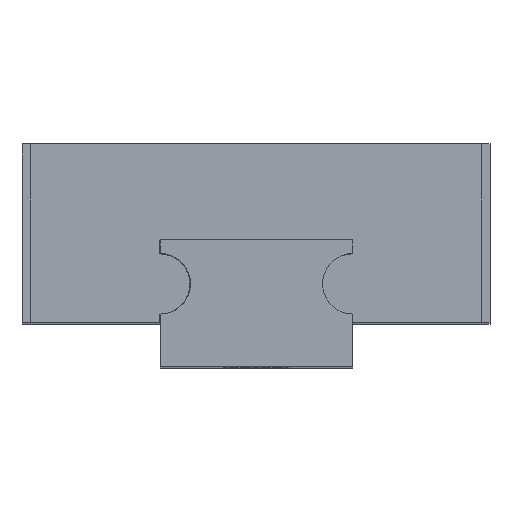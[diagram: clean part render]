
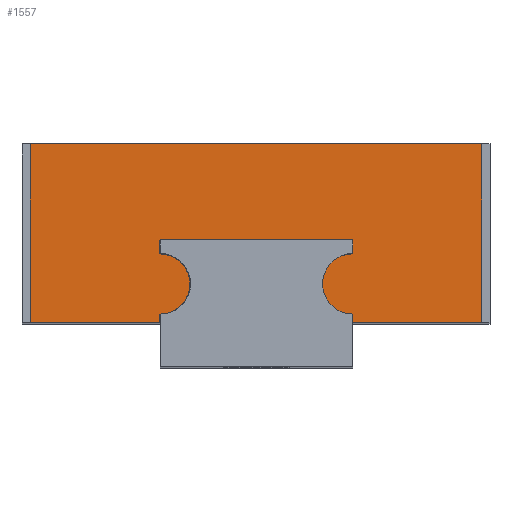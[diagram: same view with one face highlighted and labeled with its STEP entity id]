
A CAD part, top view. The second image highlights one B-rep face of the part: STEP entity #1557.
In plain terms, the highlighted planar face has unit normal (0, 0, 1).
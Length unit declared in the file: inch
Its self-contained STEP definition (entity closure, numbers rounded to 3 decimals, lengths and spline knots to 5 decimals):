
#51 = DIRECTION ( 'NONE',  ( 1., 0., 0. ) ) ;
#52 = DIRECTION ( 'NONE',  ( 0., 0., 1. ) ) ;
#71 = VERTEX_POINT ( 'NONE', #1207 ) ;
#113 = CIRCLE ( 'NONE', #756, 0.04331 ) ;
#167 = LINE ( 'NONE', #1517, #1114 ) ;
#183 = VECTOR ( 'NONE', #1868, 39.37008 ) ;
#222 = EDGE_CURVE ( 'NONE', #71, #354, #167, .T. ) ;
#256 = EDGE_CURVE ( 'NONE', #1959, #1422, #113, .T. ) ;
#262 = VERTEX_POINT ( 'NONE', #1996 ) ;
#283 = VECTOR ( 'NONE', #1512, 39.37008 ) ;
#289 = DIRECTION ( 'NONE',  ( 0., 1., 0. ) ) ;
#310 = LINE ( 'NONE', #1848, #183 ) ;
#311 = EDGE_CURVE ( 'NONE', #473, #1959, #560, .T. ) ;
#354 = VERTEX_POINT ( 'NONE', #2371 ) ;
#370 = CIRCLE ( 'NONE', #1908, 0.04331 ) ;
#390 = CARTESIAN_POINT ( 'NONE',  ( 0.47244, 0., 0.19685 ) ) ;
#432 = VECTOR ( 'NONE', #2451, 39.37008 ) ;
#449 = AXIS2_PLACEMENT_3D ( 'NONE', #1179, #1930, #51 ) ;
#450 = ORIENTED_EDGE ( 'NONE', *, *, #2293, .T. ) ;
#473 = VERTEX_POINT ( 'NONE', #1372 ) ;
#489 = LINE ( 'NONE', #524, #1618 ) ;
#502 = VERTEX_POINT ( 'NONE', #1883 ) ;
#518 = VECTOR ( 'NONE', #1289, 39.37008 ) ;
#524 = CARTESIAN_POINT ( 'NONE',  ( 0., 0.11811, 0.19685 ) ) ;
#560 = LINE ( 'NONE', #1219, #1777 ) ;
#593 = CARTESIAN_POINT ( 'NONE',  ( 0.47244, 0.05512, 0.19685 ) ) ;
#594 = EDGE_CURVE ( 'NONE', #1422, #502, #370, .T. ) ;
#601 = CARTESIAN_POINT ( 'NONE',  ( 0.47244, 0.11811, 0.19685 ) ) ;
#608 = PLANE ( 'NONE',  #449 ) ;
#644 = DIRECTION ( 'NONE',  ( 0., 1., 0. ) ) ;
#652 = DIRECTION ( 'NONE',  ( 0., 0., 1. ) ) ;
#701 = VECTOR ( 'NONE', #1354, 39.37008 ) ;
#706 = CARTESIAN_POINT ( 'NONE',  ( 0.47244, 0., 0.19685 ) ) ;
#711 = DIRECTION ( 'NONE',  ( 1., 0., 0. ) ) ;
#739 = CARTESIAN_POINT ( 'NONE',  ( 0.19685, 0.01181, 0.19685 ) ) ;
#756 = AXIS2_PLACEMENT_3D ( 'NONE', #1420, #652, #1429 ) ;
#770 = DIRECTION ( 'NONE',  ( 1., 0., 0. ) ) ;
#774 = CARTESIAN_POINT ( 'NONE',  ( 0.24016, 0.05512, 0.19685 ) ) ;
#777 = ORIENTED_EDGE ( 'NONE', *, *, #1009, .T. ) ;
#787 = CARTESIAN_POINT ( 'NONE',  ( 0., 0., 0.19685 ) ) ;
#813 = CARTESIAN_POINT ( 'NONE',  ( 0.19685, 0.05512, 0.19685 ) ) ;
#815 = LINE ( 'NONE', #390, #283 ) ;
#880 = VERTEX_POINT ( 'NONE', #1218 ) ;
#968 = ORIENTED_EDGE ( 'NONE', *, *, #1632, .T. ) ;
#1009 = EDGE_CURVE ( 'NONE', #1167, #2152, #1234, .T. ) ;
#1045 = VECTOR ( 'NONE', #2043, 39.37008 ) ;
#1070 = CIRCLE ( 'NONE', #1086, 0.04331 ) ;
#1086 = AXIS2_PLACEMENT_3D ( 'NONE', #593, #1915, #770 ) ;
#1093 = CARTESIAN_POINT ( 'NONE',  ( 0., 0., 0.19685 ) ) ;
#1111 = ORIENTED_EDGE ( 'NONE', *, *, #1428, .F. ) ;
#1114 = VECTOR ( 'NONE', #1904, 39.37008 ) ;
#1122 = CARTESIAN_POINT ( 'NONE',  ( 0.65748, 0., 0.19685 ) ) ;
#1147 = ORIENTED_EDGE ( 'NONE', *, *, #1810, .T. ) ;
#1167 = VERTEX_POINT ( 'NONE', #2191 ) ;
#1177 = ORIENTED_EDGE ( 'NONE', *, *, #594, .T. ) ;
#1179 = CARTESIAN_POINT ( 'NONE',  ( 0., 0., 0.19685 ) ) ;
#1189 = LINE ( 'NONE', #1093, #518 ) ;
#1207 = CARTESIAN_POINT ( 'NONE',  ( 0.65748, 0.25591, 0.19685 ) ) ;
#1218 = CARTESIAN_POINT ( 'NONE',  ( 0.01181, 0., 0.19685 ) ) ;
#1219 = CARTESIAN_POINT ( 'NONE',  ( 0.19685, 0., 0.19685 ) ) ;
#1234 = LINE ( 'NONE', #787, #701 ) ;
#1257 = ORIENTED_EDGE ( 'NONE', *, *, #1454, .T. ) ;
#1289 = DIRECTION ( 'NONE',  ( 1., 0., 0. ) ) ;
#1354 = DIRECTION ( 'NONE',  ( 1., 0., 0. ) ) ;
#1372 = CARTESIAN_POINT ( 'NONE',  ( 0.19685, 0., 0.19685 ) ) ;
#1420 = CARTESIAN_POINT ( 'NONE',  ( 0.19685, 0.05512, 0.19685 ) ) ;
#1422 = VERTEX_POINT ( 'NONE', #774 ) ;
#1428 = EDGE_CURVE ( 'NONE', #71, #2152, #2183, .T. ) ;
#1429 = DIRECTION ( 'NONE',  ( 1., 0., 0. ) ) ;
#1454 = EDGE_CURVE ( 'NONE', #1539, #2164, #815, .T. ) ;
#1500 = ORIENTED_EDGE ( 'NONE', *, *, #222, .T. ) ;
#1512 = DIRECTION ( 'NONE',  ( 0., -1., 0. ) ) ;
#1517 = CARTESIAN_POINT ( 'NONE',  ( 0., 0.25591, 0.19685 ) ) ;
#1539 = VERTEX_POINT ( 'NONE', #601 ) ;
#1544 = ORIENTED_EDGE ( 'NONE', *, *, #256, .T. ) ;
#1557 = ADVANCED_FACE ( 'NONE', ( #2438 ), #608, .T. ) ;
#1601 = CARTESIAN_POINT ( 'NONE',  ( 0.19685, 0.11811, 0.19685 ) ) ;
#1618 = VECTOR ( 'NONE', #2418, 39.37008 ) ;
#1624 = VECTOR ( 'NONE', #644, 39.37008 ) ;
#1632 = EDGE_CURVE ( 'NONE', #502, #2000, #2118, .T. ) ;
#1719 = CARTESIAN_POINT ( 'NONE',  ( 0.47244, 0.09843, 0.19685 ) ) ;
#1727 = CARTESIAN_POINT ( 'NONE',  ( 0.65748, 0., 0.19685 ) ) ;
#1744 = EDGE_LOOP ( 'NONE', ( #1500, #2339, #2135, #1927, #1544, #1177, #968, #1147, #1257, #450, #1972, #777, #1111 ) ) ;
#1777 = VECTOR ( 'NONE', #289, 39.37008 ) ;
#1810 = EDGE_CURVE ( 'NONE', #2000, #1539, #489, .T. ) ;
#1848 = CARTESIAN_POINT ( 'NONE',  ( 0.01181, 0., 0.19685 ) ) ;
#1868 = DIRECTION ( 'NONE',  ( 0., -1., 0. ) ) ;
#1883 = CARTESIAN_POINT ( 'NONE',  ( 0.19685, 0.09843, 0.19685 ) ) ;
#1904 = DIRECTION ( 'NONE',  ( -1., 0., 0. ) ) ;
#1908 = AXIS2_PLACEMENT_3D ( 'NONE', #813, #52, #711 ) ;
#1915 = DIRECTION ( 'NONE',  ( 0., 0., 1. ) ) ;
#1927 = ORIENTED_EDGE ( 'NONE', *, *, #311, .T. ) ;
#1930 = DIRECTION ( 'NONE',  ( 0., 0., 1. ) ) ;
#1959 = VERTEX_POINT ( 'NONE', #739 ) ;
#1972 = ORIENTED_EDGE ( 'NONE', *, *, #2407, .T. ) ;
#1996 = CARTESIAN_POINT ( 'NONE',  ( 0.47244, 0.01181, 0.19685 ) ) ;
#2000 = VERTEX_POINT ( 'NONE', #1601 ) ;
#2043 = DIRECTION ( 'NONE',  ( 0., -1., 0. ) ) ;
#2118 = LINE ( 'NONE', #2158, #1624 ) ;
#2135 = ORIENTED_EDGE ( 'NONE', *, *, #2163, .T. ) ;
#2152 = VERTEX_POINT ( 'NONE', #1122 ) ;
#2158 = CARTESIAN_POINT ( 'NONE',  ( 0.19685, 0., 0.19685 ) ) ;
#2163 = EDGE_CURVE ( 'NONE', #880, #473, #1189, .T. ) ;
#2164 = VERTEX_POINT ( 'NONE', #1719 ) ;
#2183 = LINE ( 'NONE', #1727, #432 ) ;
#2191 = CARTESIAN_POINT ( 'NONE',  ( 0.47244, 0., 0.19685 ) ) ;
#2280 = LINE ( 'NONE', #706, #1045 ) ;
#2293 = EDGE_CURVE ( 'NONE', #2164, #262, #1070, .T. ) ;
#2339 = ORIENTED_EDGE ( 'NONE', *, *, #2422, .T. ) ;
#2371 = CARTESIAN_POINT ( 'NONE',  ( 0.01181, 0.25591, 0.19685 ) ) ;
#2407 = EDGE_CURVE ( 'NONE', #262, #1167, #2280, .T. ) ;
#2418 = DIRECTION ( 'NONE',  ( 1., 0., 0. ) ) ;
#2422 = EDGE_CURVE ( 'NONE', #354, #880, #310, .T. ) ;
#2438 = FACE_OUTER_BOUND ( 'NONE', #1744, .T. ) ;
#2451 = DIRECTION ( 'NONE',  ( 0., -1., 0. ) ) ;
